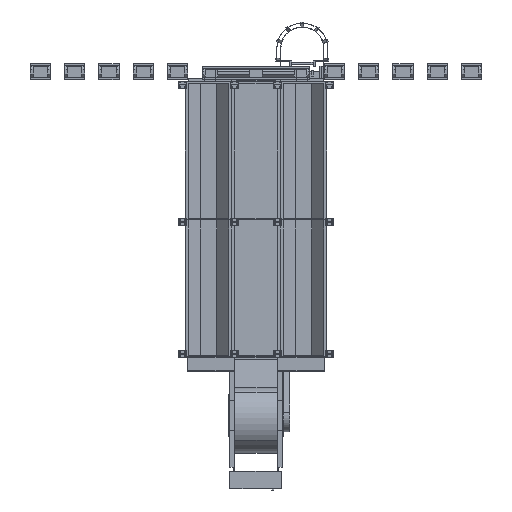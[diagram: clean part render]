
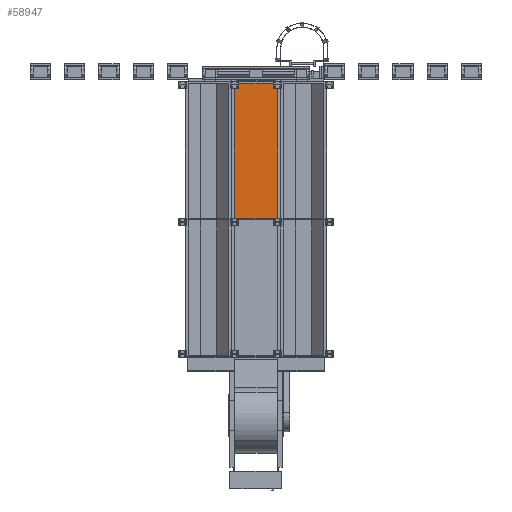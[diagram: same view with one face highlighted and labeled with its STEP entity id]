
A CAD part, front view. The second image highlights one B-rep face of the part: STEP entity #58947.
In plain terms, the highlighted planar face has unit normal (0, -1, 0) as drawn and (0, 0, -1) by its records, which use the part's own axes.
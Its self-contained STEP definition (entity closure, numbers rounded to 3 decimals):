
#3195=FACE_OUTER_BOUND('',#6218,.T.);
#6218=EDGE_LOOP('',(#39373,#39374,#39375,#39376));
#9928=LINE('',#83638,#17235);
#9931=LINE('',#83644,#17238);
#9997=LINE('',#83782,#17304);
#9998=LINE('',#83783,#17305);
#17235=VECTOR('',#67259,0.394);
#17238=VECTOR('',#67264,0.394);
#17304=VECTOR('',#67354,0.394);
#17305=VECTOR('',#67355,0.394);
#24471=VERTEX_POINT('',#83631);
#24474=VERTEX_POINT('',#83636);
#24475=VERTEX_POINT('',#83640);
#24536=VERTEX_POINT('',#83781);
#30301=EDGE_CURVE('',#24474,#24471,#9928,.T.);
#30304=EDGE_CURVE('',#24471,#24475,#9931,.T.);
#30370=EDGE_CURVE('',#24536,#24475,#9997,.T.);
#30371=EDGE_CURVE('',#24536,#24474,#9998,.T.);
#39373=ORIENTED_EDGE('',*,*,#30370,.T.);
#39374=ORIENTED_EDGE('',*,*,#30304,.F.);
#39375=ORIENTED_EDGE('',*,*,#30301,.F.);
#39376=ORIENTED_EDGE('',*,*,#30371,.F.);
#56556=PLANE('',#62472);
#58947=ADVANCED_FACE('',(#3195),#56556,.F.);
#62472=AXIS2_PLACEMENT_3D('',#83780,#67352,#67353);
#67259=DIRECTION('',(0.,-1.,0.));
#67264=DIRECTION('',(1.,0.,0.));
#67352=DIRECTION('center_axis',(0.,0.,1.));
#67353=DIRECTION('ref_axis',(1.,0.,0.));
#67354=DIRECTION('',(0.,-1.,0.));
#67355=DIRECTION('',(-1.,0.,0.));
#83631=CARTESIAN_POINT('',(-288.,-47.25,0.));
#83636=CARTESIAN_POINT('',(-288.,47.25,0.));
#83638=CARTESIAN_POINT('',(-288.,47.25,0.));
#83640=CARTESIAN_POINT('',(-192.004,-47.25,0.));
#83644=CARTESIAN_POINT('',(-288.,-47.25,0.));
#83780=CARTESIAN_POINT('Origin',(-144.,0.,0.));
#83781=CARTESIAN_POINT('',(-192.004,47.25,0.));
#83782=CARTESIAN_POINT('',(-192.004,2.638,0.));
#83783=CARTESIAN_POINT('',(0.,47.25,0.));
